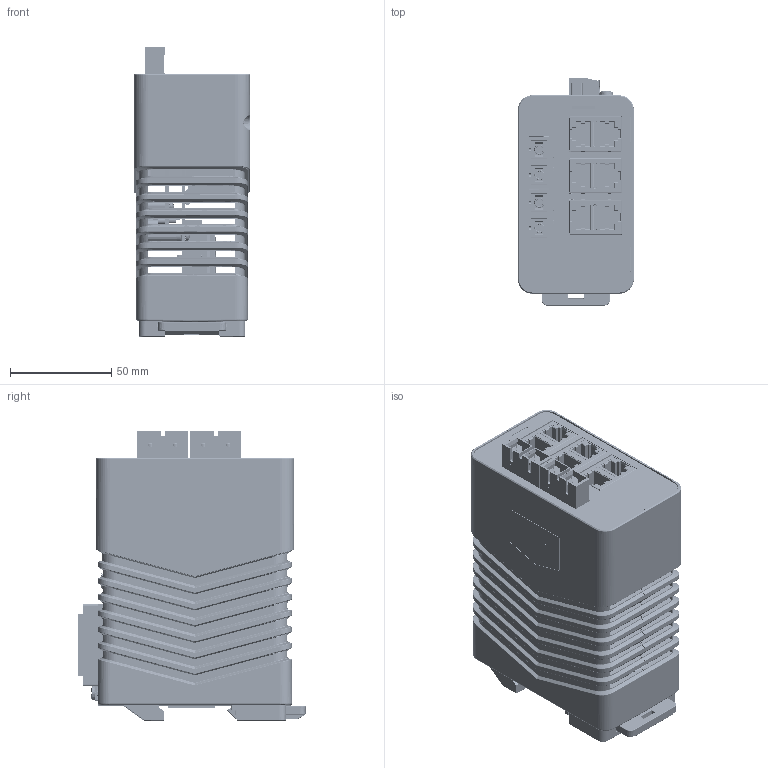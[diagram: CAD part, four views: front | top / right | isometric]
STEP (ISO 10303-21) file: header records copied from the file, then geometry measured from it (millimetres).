
FILE_DESCRIPTION (( 'STEP AP214' ), '1' );
FILE_NAME ('NT5008-FX & NT5008-GX SC.STEP', '2023-01-24T14:21:50', ( '' ), ( '' ), 'SwSTEP 2.0', 'SolidWorks 2022', '' );
FILE_SCHEMA (( 'AUTOMOTIVE_DESIGN' ));
Length unit declared in the file: millimetre
Products named in the file (24): 11611; 11702_11702; 11836; 10778; 3_85 MASTER PART FILE; 10670; Jubilee DB_Fiber_SC; 11704; NPTP0061; 11618; 11071; 11820_95345A444; 5008 FX_GX Core Board; label bulkhead; 11612; 96439A130_18-8 SS PRESS-FIT NUT FOR SHEET METAL_96439A130; 11704_ cutouts concept wide; NT5008-FX & NT5008-GX SC; 11617_Wide; 10783; LOGO Sticker; 11821; HWSMCZ08_95345A426; overlay front wide 6RJ spacing_ cutouts concept wide FIBER
Assembly tree (40 placements, depth 3):
  3_85 MASTER PART FILE
  NT5008-FX & NT5008-GX SC
    11611
    11612
    11617_Wide
    11618
    11702_11702
    11704
      11704_ cutouts concept wide
      96439A130_18-8 SS PRESS-FIT NUT FOR SHEET METAL_96439A130  x2
    HWSMCZ08_95345A426  x13
    11820_95345A444  x4
    11821
    11836  x2
    10778
    10670
    overlay front wide 6RJ spacing_ cutouts concept wide FIBER
    label bulkhead
    LOGO Sticker
    NPTP0061
    5008 FX_GX Core Board
    Jubilee DB_Fiber_SC
    11071
    10783  x2
Bounding box: 57.23 x 112.11 x 142.69 mm (x, y, z)
Volume: 214414.1 mm3; surface area: 230435.8 mm2
Topology: 65 solids, 140 shells, 15365 faces, 41431 edges, 26501 vertices
Faces by surface type: plane 8666, cylinder 3862, bspline 1867, cone 520, torus 293, sphere 157
Entity records: 546047 total; most frequent: CARTESIAN_POINT 165803, ORIENTED_EDGE 65708, DIRECTION 49570, EDGE_CURVE 32923, VERTEX_POINT 21209, AXIS2_PLACEMENT_3D 16550, VECTOR 16470, LINE 16470
